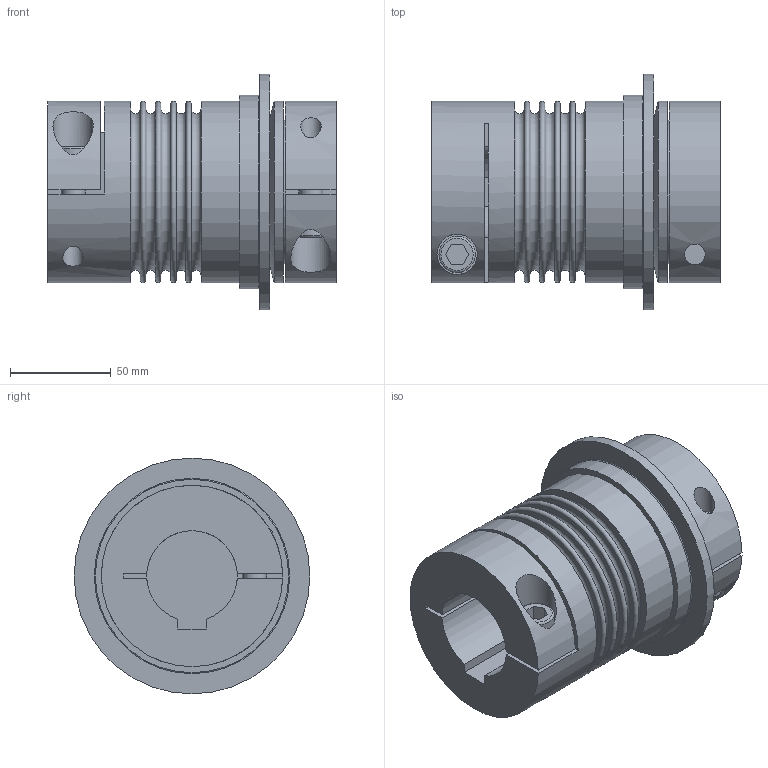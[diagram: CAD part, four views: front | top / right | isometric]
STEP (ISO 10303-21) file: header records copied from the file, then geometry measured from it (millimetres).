
FILE_DESCRIPTION(/* description */ ('STEP AP214'),/* implementation_level */ '2;1');
FILE_NAME(/* name */ 'C:\Diequa Files\DieQua Coupling\TB2\STP\TB2.200.143.F.#.#.stp',/* time_stamp */ '2019-04-26T10:40:38-05:00',/* author */ ('DiequaCAD'),/* organization */ (''),/* preprocessor_version */ 'ST-DEVELOPER v18',/* originating_system */ 'Autodesk Inventor 2020',/* authorisation */ ' ');
FILE_SCHEMA (('AUTOMOTIVE_DESIGN { 1 0 10303 214 3 1 1 }'));
Length unit declared in the file: millimetre
Products named in the file (1): TB2.200.143.F.#.#
Bounding box: 143 x 117 x 117 mm (x, y, z)
Volume: 747435 mm3; surface area: 107992.5 mm2
Topology: 1 solids, 1 shells, 90 faces, 212 edges, 148 vertices
Faces by surface type: plane 57, cylinder 20, torus 12, cone 1
Full cylindrical faces by diameter (mm): 10.2 x2, 12 x2, 13.5 x2, 18 x2, 20 x2, 71 x1, 90 x3, 96 x1, 117 x1
Entity records: 2857 total; most frequent: CARTESIAN_POINT 603, DIRECTION 491, ORIENTED_EDGE 424, EDGE_CURVE 212, AXIS2_PLACEMENT_3D 194, VERTEX_POINT 148, EDGE_LOOP 118, LINE 103
